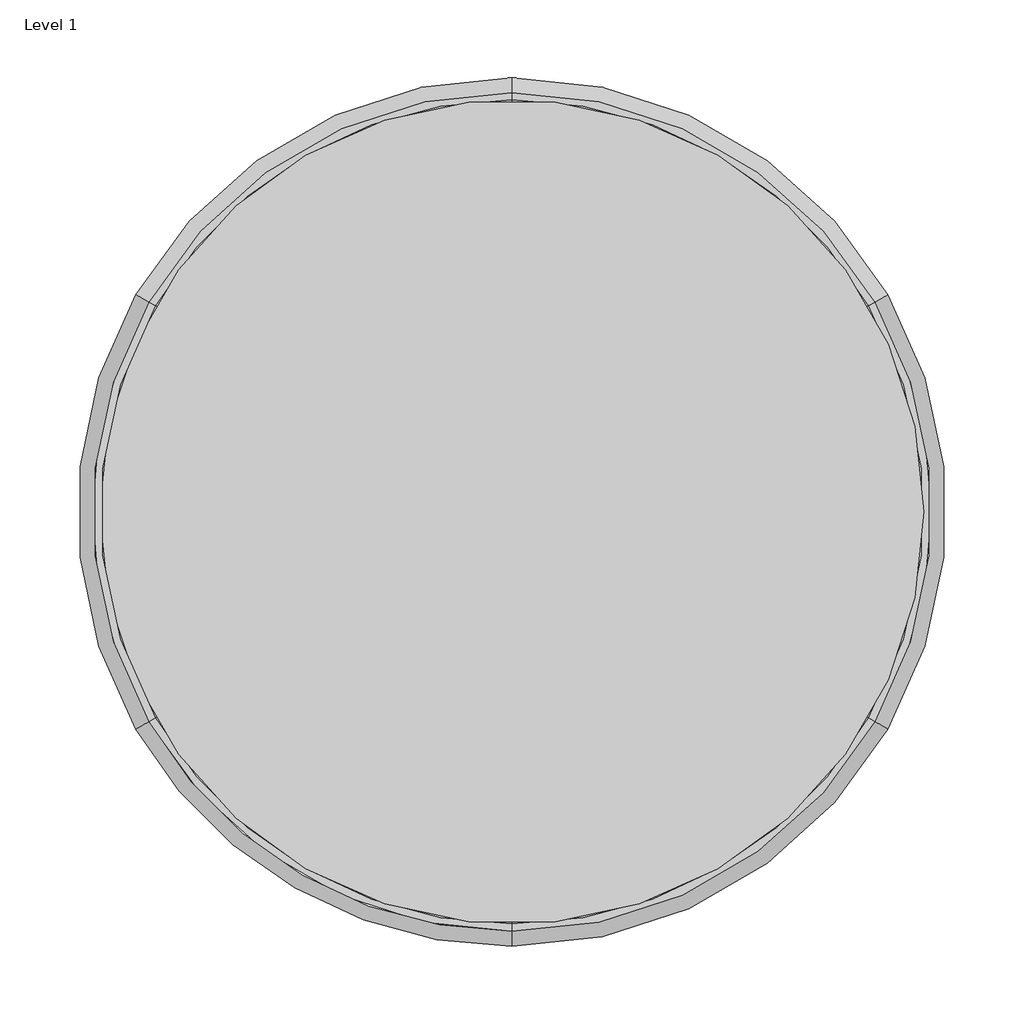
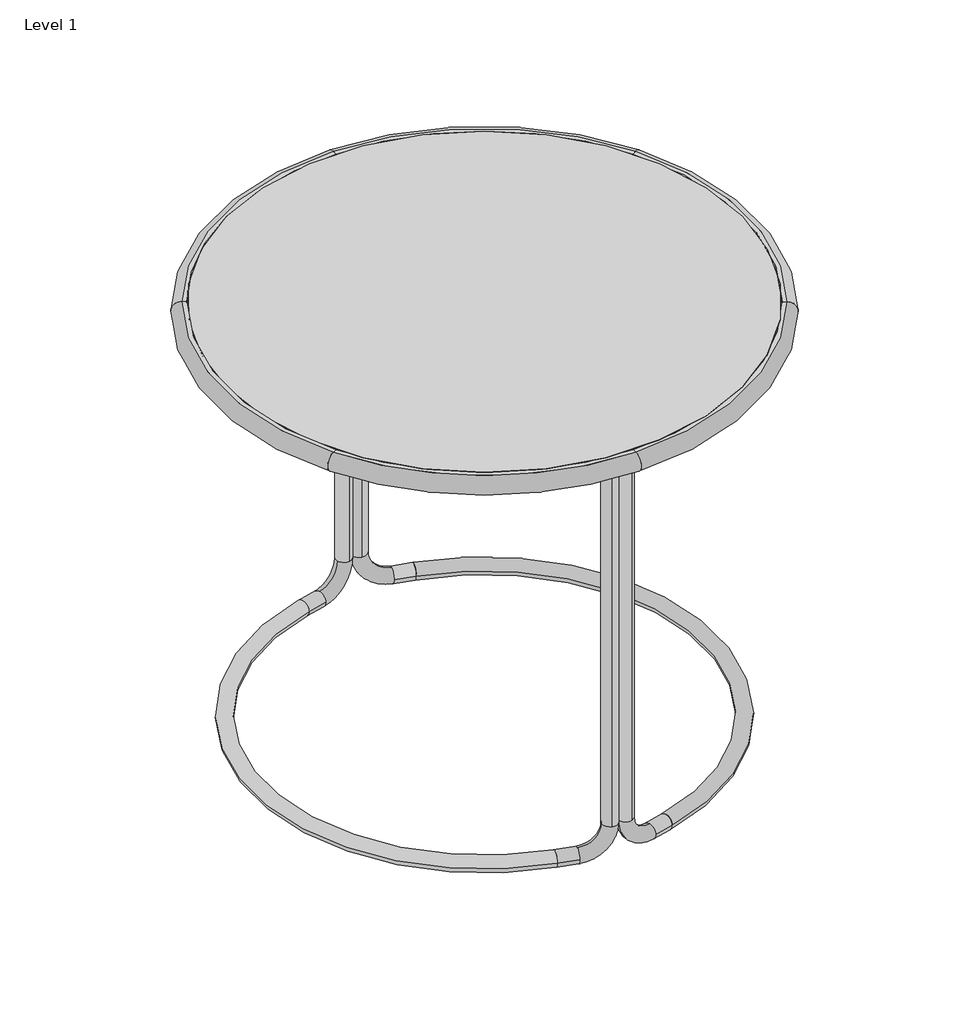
# One storey: 1 proxy.
"""IFC4 building model written with IfcOpenShell, lengths in millimetres."""

from ifc_helpers import new_model, si_unit, origin, place, context, project, spatial, transform, mapped, element, save
from components import proxy_1070_91a97d15, proxy_1070_40b6016d

model = new_model("IFC4")

# Units and contexts
model_context = context("Model", 3, world=origin())
ifc_project = project(units=[si_unit("LENGTHUNIT", "METRE", prefix="MILLI")], contexts=[model_context])

# Site, building, storey
site = spatial("IfcSite", under=ifc_project)
building = spatial("IfcBuilding", under=site)
storey = spatial("IfcBuildingStorey", under=building, Name="Level 1", Elevation=0.0)

# Proxy
placement = place(None, origin())
proxy_1070_shape = proxy_1070_91a97d15(model_context)
proxy_1070_2_shape = proxy_1070_40b6016d(model_context)
element("IfcBuildingElementProxy", 1, Name="1070", ObjectType="1070", at=placement, inside=storey, context=model_context, shape_type="MappedRepresentation", body=[
    mapped(proxy_1070_shape, transform((0.0, 0.0, 0.0), x_axis=(1.0, 0.0, 0.0), y_axis=(0.0, 1.0, 0.0), z_axis=(0.0, 0.0, 1.0))),
    mapped(proxy_1070_2_shape, transform((0.0, 0.0, 0.0), x_axis=(1.0, 0.0, 0.0), y_axis=(0.0, 1.0, 0.0), z_axis=(0.0, 0.0, 1.0))),
])

save(model, "model.ifc")
